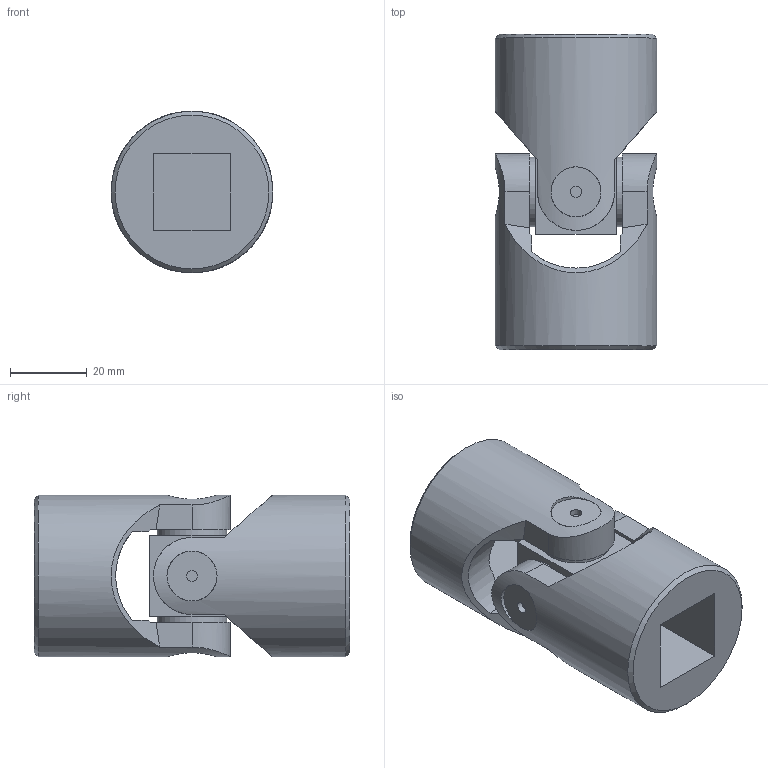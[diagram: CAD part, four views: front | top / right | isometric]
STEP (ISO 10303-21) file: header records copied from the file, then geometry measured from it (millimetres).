
FILE_DESCRIPTION(/* description */ ('EXTENSIBLE TRANSIMISSIONS Series G DIN 808 -2-'),/* implementation_level */ '2;1');
FILE_NAME(/* name */ '\\SRV2016\societa\Stefano\Disegni 3D\Dis. Clienti\0000Catalogo 3D\01Singoli G-GB\SG0S202Q.stp',/* time_stamp */ '2021-11-08T17:29:14+01:00',/* author */ ('acquisti'),/* organization */ ('MARIOFERRI'),/* preprocessor_version */ 'ST-DEVELOPER v15.6',/* originating_system */ 'Autodesk Inventor 2015',/* authorisation */ '');
FILE_SCHEMA (('AUTOMOTIVE_DESIGN { 1 0 10303 214 3 1 1 }'));
Length unit declared in the file: millimetre
Products named in the file (3): 3G SFE; 3G MOQ; Assieme3
Assembly tree (3 placements, depth 2):
  Assieme3
    3G SFE
    3G MOQ  x2
Bounding box: 42 x 82 x 42 mm (x, y, z)
Volume: 73668.8 mm3; surface area: 22148.4 mm2
Topology: 3 solids, 3 shells, 102 faces, 252 edges, 166 vertices
Faces by surface type: plane 44, cylinder 38, cone 18, torus 2
Full cylindrical faces by diameter (mm): 3 x4, 18 x4, 42 x2
Entity records: 1899 total; most frequent: CARTESIAN_POINT 577, ORIENTED_EDGE 258, DIRECTION 252, EDGE_CURVE 129, AXIS2_PLACEMENT_3D 106, VERTEX_POINT 91, EDGE_LOOP 76, FACE_OUTER_BOUND 58
